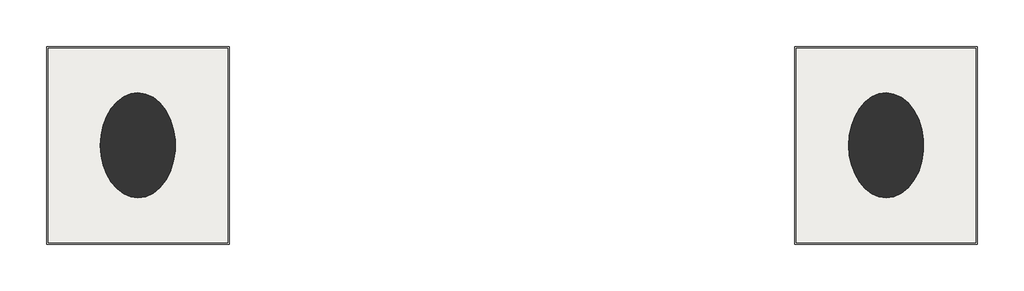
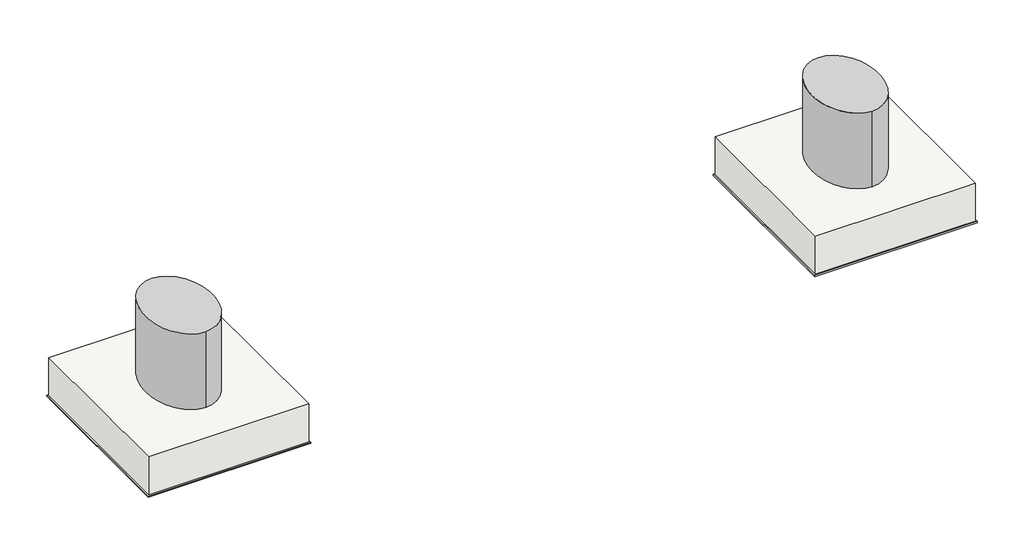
# One storey: 4 slabs, 2 columns.
"""IFC4 building model written with IfcOpenShell, lengths in millimetres."""

from ifc_helpers import new_model, si_unit, frame, origin, place, context, project, spatial, polyline, outline, extrude, transform, mapped, element, save
from components import column_4a8e9384

model = new_model("IFC4")

# Units and contexts
model_context = context("Model", 3, world=origin())
ifc_project = project(units=[si_unit("LENGTHUNIT", "METRE", prefix="MILLI")], contexts=[model_context])

# Site, building, storey
site = spatial("IfcSite", under=ifc_project)
building = spatial("IfcBuilding", under=site)
storey = spatial("IfcBuildingStorey", under=building, Name="교각기초레벨", Elevation=0.0)

# Columns
placement = place(None, origin())
column_shape = column_4a8e9384(model_context)
element("IfcColumn", 1, ObjectType="교각 기둥 : 교각 기둥", at=placement, inside=storey, context=model_context, shape_type="MappedRepresentation", body=[
    mapped(column_shape, transform((38219.633441, 448.8136521, 0.0), x_axis=(0.0, 1.0, 0.0), y_axis=(-1.0, 0.0, 0.0), z_axis=(0.0, 0.0, 1.0))),
])
element("IfcColumn", 2, ObjectType="교각 기둥 : 교각 기둥", at=placement, inside=storey, context=model_context, shape_type="MappedRepresentation", body=[
    mapped(column_shape, transform((88219.633441, 448.8136521, 0.0), x_axis=(0.0, 1.0, 0.0), y_axis=(-1.0, 0.0, 0.0), z_axis=(0.0, 0.0, 1.0))),
])

# Slabs
element("IfcSlab", 3, ObjectType="교각 기초 : 교각 기초", at=placement, inside=storey, context=model_context, shape_type="SweptSolid", body=[
    extrude(outline(polyline([(32219.633441, 6948.8136521), (44219.633441, 6948.8136521), (44219.633441, -6051.1863479), (32219.633441, -6051.1863479), (32219.633441, 6948.8136521)])), frame((0.0, 0.0, -3000.0), z_axis=(0.0, 0.0, 1.0), x_axis=(1.0, 0.0, 0.0)), (0.0, 0.0, 1.0), 3000.0),
])
element("IfcSlab", 4, ObjectType="교각 버림콘크리트 : 교각 버림콘크리트", at=placement, inside=storey, context=model_context, shape_type="SweptSolid", body=[
    extrude(outline(polyline([(32119.633441, 7048.8136521), (44319.633441, 7048.8136521), (44319.633441, -6151.1863479), (32119.633441, -6151.1863479), (32119.633441, 7048.8136521)])), frame((0.0, 0.0, -3100.0), z_axis=(0.0, 0.0, 1.0), x_axis=(1.0, 0.0, 0.0)), (0.0, 0.0, 1.0), 100.0),
])
element("IfcSlab", 5, ObjectType="교각 기초 : 교각 기초", at=placement, inside=storey, context=model_context, shape_type="SweptSolid", body=[
    extrude(outline(polyline([(82219.633441, 6948.8136521), (94219.633441, 6948.8136521), (94219.633441, -6051.1863479), (82219.633441, -6051.1863479), (82219.633441, 6948.8136521)])), frame((0.0, 0.0, -3000.0), z_axis=(0.0, 0.0, 1.0), x_axis=(1.0, 0.0, 0.0)), (0.0, 0.0, 1.0), 3000.0),
])
element("IfcSlab", 6, ObjectType="교각 버림콘크리트 : 교각 버림콘크리트", at=placement, inside=storey, context=model_context, shape_type="SweptSolid", body=[
    extrude(outline(polyline([(82119.633441, 7048.8136521), (94319.633441, 7048.8136521), (94319.633441, -6151.1863479), (82119.633441, -6151.1863479), (82119.633441, 7048.8136521)])), frame((0.0, 0.0, -3100.0), z_axis=(0.0, 0.0, 1.0), x_axis=(1.0, 0.0, 0.0)), (0.0, 0.0, 1.0), 100.0),
])

save(model, "model.ifc")
